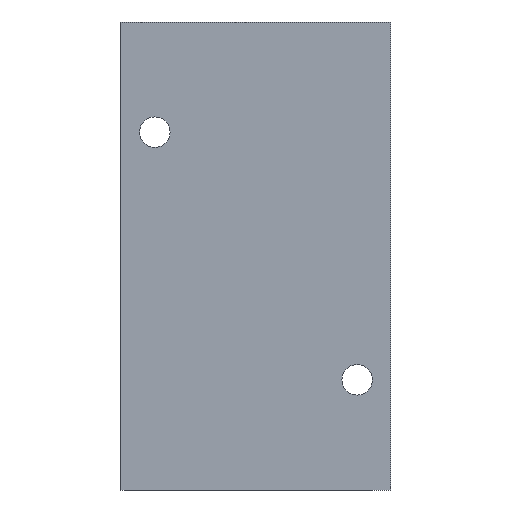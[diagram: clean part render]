
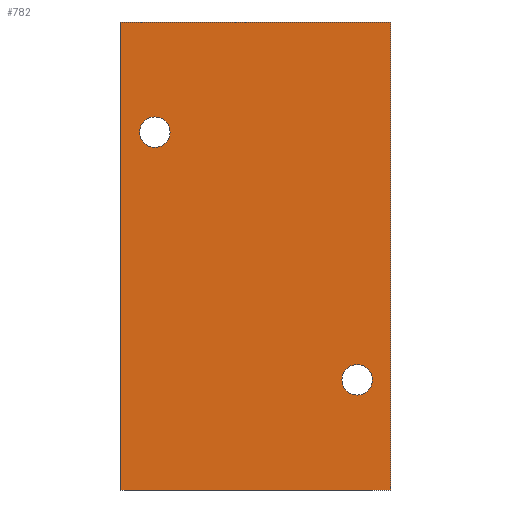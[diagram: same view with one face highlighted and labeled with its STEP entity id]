
A CAD part, front view. The second image highlights one B-rep face of the part: STEP entity #782.
In plain terms, the highlighted planar face has unit normal (0, -1, 0).
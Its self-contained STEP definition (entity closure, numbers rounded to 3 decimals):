
#39 = VECTOR ( 'NONE', #1385, 1000. ) ;
#79 = EDGE_LOOP ( 'NONE', ( #492, #860, #1669, #1042 ) ) ;
#80 = EDGE_CURVE ( 'NONE', #863, #791, #806, .T. ) ;
#81 = DIRECTION ( 'NONE',  ( 0., -1., 0. ) ) ;
#83 = CIRCLE ( 'NONE', #1417, 3.4 ) ;
#94 = EDGE_LOOP ( 'NONE', ( #1731, #389 ) ) ;
#135 = VERTEX_POINT ( 'NONE', #445 ) ;
#148 = VERTEX_POINT ( 'NONE', #868 ) ;
#200 = EDGE_CURVE ( 'NONE', #522, #1597, #83, .T. ) ;
#238 = CARTESIAN_POINT ( 'NONE',  ( -30., -21., -52. ) ) ;
#242 = CIRCLE ( 'NONE', #1610, 3.4 ) ;
#318 = ORIENTED_EDGE ( 'NONE', *, *, #200, .F. ) ;
#346 = DIRECTION ( 'NONE',  ( 0., 0., -1. ) ) ;
#389 = ORIENTED_EDGE ( 'NONE', *, *, #911, .F. ) ;
#409 = CARTESIAN_POINT ( 'NONE',  ( -30., -21., 52. ) ) ;
#445 = CARTESIAN_POINT ( 'NONE',  ( 30., -21., 52. ) ) ;
#485 = CARTESIAN_POINT ( 'NONE',  ( -30., -21., 52. ) ) ;
#492 = ORIENTED_EDGE ( 'NONE', *, *, #1632, .T. ) ;
#497 = CARTESIAN_POINT ( 'NONE',  ( -22.5, -21., 27.5 ) ) ;
#522 = VERTEX_POINT ( 'NONE', #937 ) ;
#536 = EDGE_CURVE ( 'NONE', #863, #135, #1471, .T. ) ;
#539 = CARTESIAN_POINT ( 'NONE',  ( -30., -21., 52. ) ) ;
#584 = FACE_OUTER_BOUND ( 'NONE', #79, .T. ) ;
#625 = AXIS2_PLACEMENT_3D ( 'NONE', #1167, #929, #346 ) ;
#674 = EDGE_CURVE ( 'NONE', #135, #148, #1784, .T. ) ;
#714 = ORIENTED_EDGE ( 'NONE', *, *, #1736, .F. ) ;
#748 = DIRECTION ( 'NONE',  ( 0., 0., -1. ) ) ;
#749 = DIRECTION ( 'NONE',  ( 0., -1., 0. ) ) ;
#769 = DIRECTION ( 'NONE',  ( 0., 0., -1. ) ) ;
#782 = ADVANCED_FACE ( 'NONE', ( #1416, #828, #584 ), #1120, .F. ) ;
#791 = VERTEX_POINT ( 'NONE', #1659 ) ;
#806 = LINE ( 'NONE', #539, #1305 ) ;
#821 = DIRECTION ( 'NONE',  ( 1., 0., 0. ) ) ;
#828 = FACE_BOUND ( 'NONE', #94, .T. ) ;
#839 = DIRECTION ( 'NONE',  ( 0., 0., 1. ) ) ;
#860 = ORIENTED_EDGE ( 'NONE', *, *, #674, .F. ) ;
#863 = VERTEX_POINT ( 'NONE', #485 ) ;
#868 = CARTESIAN_POINT ( 'NONE',  ( 30., -21., -52. ) ) ;
#875 = AXIS2_PLACEMENT_3D ( 'NONE', #409, #1147, #839 ) ;
#911 = EDGE_CURVE ( 'NONE', #1593, #1164, #242, .T. ) ;
#918 = EDGE_LOOP ( 'NONE', ( #318, #714 ) ) ;
#929 = DIRECTION ( 'NONE',  ( 0., -1., 0. ) ) ;
#937 = CARTESIAN_POINT ( 'NONE',  ( 22.5, -21., -30.9 ) ) ;
#978 = LINE ( 'NONE', #238, #1087 ) ;
#1028 = CARTESIAN_POINT ( 'NONE',  ( 22.5, -21., -27.5 ) ) ;
#1042 = ORIENTED_EDGE ( 'NONE', *, *, #80, .T. ) ;
#1087 = VECTOR ( 'NONE', #1353, 1000. ) ;
#1089 = VECTOR ( 'NONE', #821, 1000. ) ;
#1091 = DIRECTION ( 'NONE',  ( 0., 0., -1. ) ) ;
#1120 = PLANE ( 'NONE',  #875 ) ;
#1147 = DIRECTION ( 'NONE',  ( 0., 1., 0. ) ) ;
#1148 = CIRCLE ( 'NONE', #1348, 3.4 ) ;
#1164 = VERTEX_POINT ( 'NONE', #1783 ) ;
#1167 = CARTESIAN_POINT ( 'NONE',  ( -22.5, -21., 27.5 ) ) ;
#1211 = CARTESIAN_POINT ( 'NONE',  ( -22.5, -21., 30.9 ) ) ;
#1270 = DIRECTION ( 'NONE',  ( 0., 0., -1. ) ) ;
#1305 = VECTOR ( 'NONE', #1091, 1000. ) ;
#1348 = AXIS2_PLACEMENT_3D ( 'NONE', #1390, #1673, #1270 ) ;
#1353 = DIRECTION ( 'NONE',  ( 1., 0., 0. ) ) ;
#1385 = DIRECTION ( 'NONE',  ( 0., 0., -1. ) ) ;
#1390 = CARTESIAN_POINT ( 'NONE',  ( 22.5, -21., -27.5 ) ) ;
#1405 = CIRCLE ( 'NONE', #625, 3.4 ) ;
#1416 = FACE_BOUND ( 'NONE', #918, .T. ) ;
#1417 = AXIS2_PLACEMENT_3D ( 'NONE', #1028, #749, #769 ) ;
#1423 = EDGE_CURVE ( 'NONE', #1164, #1593, #1405, .T. ) ;
#1471 = LINE ( 'NONE', #1637, #1089 ) ;
#1515 = CARTESIAN_POINT ( 'NONE',  ( 30., -21., 52. ) ) ;
#1593 = VERTEX_POINT ( 'NONE', #1211 ) ;
#1597 = VERTEX_POINT ( 'NONE', #1779 ) ;
#1610 = AXIS2_PLACEMENT_3D ( 'NONE', #497, #81, #748 ) ;
#1632 = EDGE_CURVE ( 'NONE', #791, #148, #978, .T. ) ;
#1637 = CARTESIAN_POINT ( 'NONE',  ( -30., -21., 52. ) ) ;
#1659 = CARTESIAN_POINT ( 'NONE',  ( -30., -21., -52. ) ) ;
#1669 = ORIENTED_EDGE ( 'NONE', *, *, #536, .F. ) ;
#1673 = DIRECTION ( 'NONE',  ( 0., -1., 0. ) ) ;
#1731 = ORIENTED_EDGE ( 'NONE', *, *, #1423, .F. ) ;
#1736 = EDGE_CURVE ( 'NONE', #1597, #522, #1148, .T. ) ;
#1779 = CARTESIAN_POINT ( 'NONE',  ( 22.5, -21., -24.1 ) ) ;
#1783 = CARTESIAN_POINT ( 'NONE',  ( -22.5, -21., 24.1 ) ) ;
#1784 = LINE ( 'NONE', #1515, #39 ) ;
